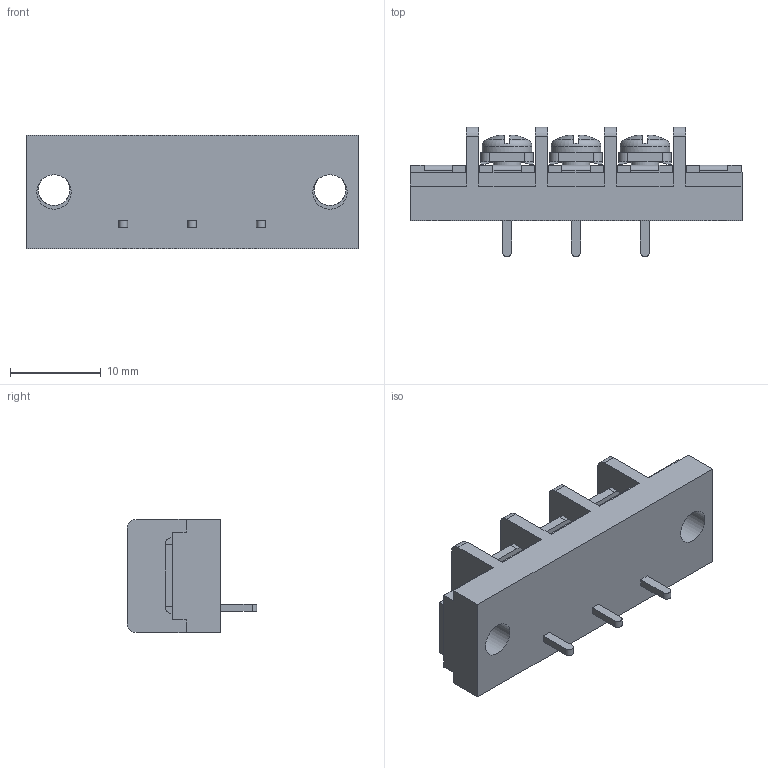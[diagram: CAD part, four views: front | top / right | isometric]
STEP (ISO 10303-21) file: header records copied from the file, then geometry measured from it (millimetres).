
FILE_DESCRIPTION(/* description */ ('Alibre Inc.'),/* implementation_level */ '2;1');
FILE_NAME(/* name */ 'export0',/* time_stamp */ '2015-10-26T17:29:27+09:00',/* author */ (''),/* organization */ (''),/* preprocessor_version */ 'ST-DEVELOPER v14',/* originating_system */ 'Alibre',/* authorisation */ '');
FILE_SCHEMA (('CONFIG_CONTROL_DESIGN'));
Length unit declared in the file: centimetre
Products named in the file (1): ID_1
Bounding box: 36.68 x 14.3 x 12.5 mm (x, y, z)
Volume: 2946.1 mm3; surface area: 2749.1 mm2
Topology: 1 solids, 17 shells, 730 faces, 1955 edges, 1293 vertices
Faces by surface type: plane 556, bspline 104, cylinder 46, cone 12, torus 6, sphere 6
Full cylindrical faces by diameter (mm): 3 x3, 3.5 x2, 3.8 x2, 5.5 x3
Entity records: 21746 total; most frequent: CARTESIAN_POINT 5062, ORIENTED_EDGE 3846, DIRECTION 2459, EDGE_CURVE 1923, VECTOR 1436, LINE 1436, VERTEX_POINT 1277, EDGE_LOOP 792
